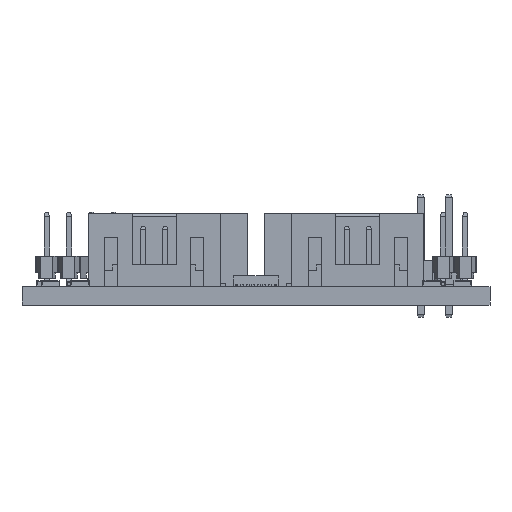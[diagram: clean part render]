
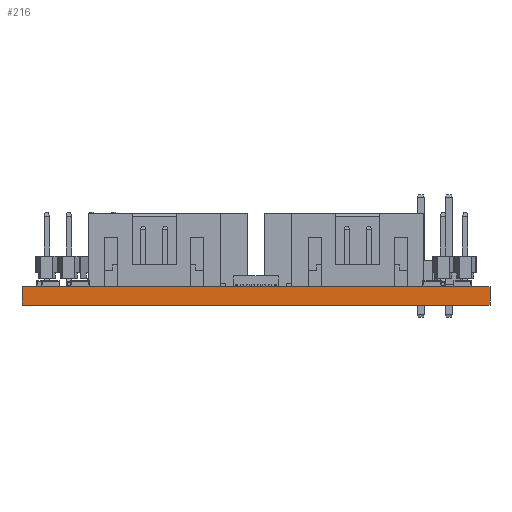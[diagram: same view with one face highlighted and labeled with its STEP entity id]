
A CAD part, front view. The second image highlights one B-rep face of the part: STEP entity #216.
In plain terms, the highlighted planar face has unit normal (0, -1, 0).
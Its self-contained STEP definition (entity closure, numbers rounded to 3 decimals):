
#216 = ADVANCED_FACE('',(#217),#251,.F.);
#217 = FACE_BOUND('',#218,.F.);
#218 = EDGE_LOOP('',(#219,#229,#237,#245));
#219 = ORIENTED_EDGE('',*,*,#220,.T.);
#220 = EDGE_CURVE('',#221,#223,#225,.T.);
#221 = VERTEX_POINT('',#222);
#222 = CARTESIAN_POINT('',(0.,0.,0.));
#223 = VERTEX_POINT('',#224);
#224 = CARTESIAN_POINT('',(0.,0.,1.646));
#225 = LINE('',#226,#227);
#226 = CARTESIAN_POINT('',(0.,0.,0.));
#227 = VECTOR('',#228,1.);
#228 = DIRECTION('',(0.,0.,1.));
#229 = ORIENTED_EDGE('',*,*,#230,.T.);
#230 = EDGE_CURVE('',#223,#231,#233,.T.);
#231 = VERTEX_POINT('',#232);
#232 = CARTESIAN_POINT('',(42.5,0.,1.646));
#233 = LINE('',#234,#235);
#234 = CARTESIAN_POINT('',(0.,0.,1.646));
#235 = VECTOR('',#236,1.);
#236 = DIRECTION('',(1.,0.,0.));
#237 = ORIENTED_EDGE('',*,*,#238,.F.);
#238 = EDGE_CURVE('',#239,#231,#241,.T.);
#239 = VERTEX_POINT('',#240);
#240 = CARTESIAN_POINT('',(42.5,0.,0.));
#241 = LINE('',#242,#243);
#242 = CARTESIAN_POINT('',(42.5,0.,0.));
#243 = VECTOR('',#244,1.);
#244 = DIRECTION('',(0.,0.,1.));
#245 = ORIENTED_EDGE('',*,*,#246,.F.);
#246 = EDGE_CURVE('',#221,#239,#247,.T.);
#247 = LINE('',#248,#249);
#248 = CARTESIAN_POINT('',(0.,0.,0.));
#249 = VECTOR('',#250,1.);
#250 = DIRECTION('',(1.,0.,0.));
#251 = PLANE('',#252);
#252 = AXIS2_PLACEMENT_3D('',#253,#254,#255);
#253 = CARTESIAN_POINT('',(0.,0.,0.));
#254 = DIRECTION('',(0.,1.,0.));
#255 = DIRECTION('',(1.,0.,0.));
